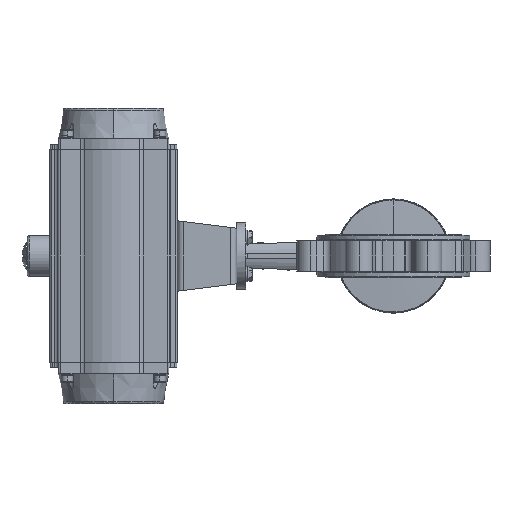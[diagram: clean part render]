
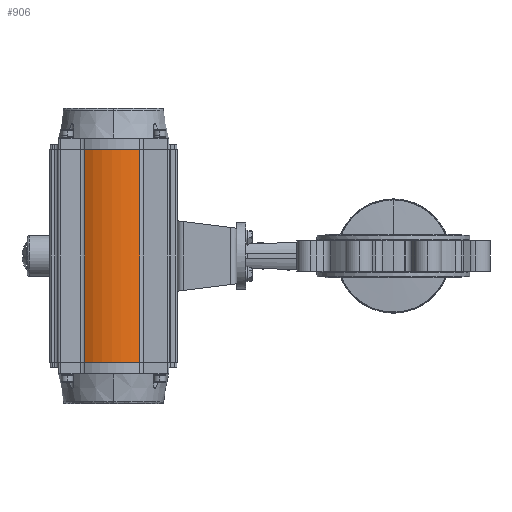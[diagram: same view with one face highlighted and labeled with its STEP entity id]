
A CAD part, left-side view. The second image highlights one B-rep face of the part: STEP entity #906.
In plain terms, the highlighted cylindrical face has radius 75 mm (diameter 150 mm), a partial arc.
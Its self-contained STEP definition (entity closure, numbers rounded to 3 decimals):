
#353 = EDGE_LOOP ( 'NONE', ( #81658, #37448, #69036, #13335 ) ) ;
#906 = ADVANCED_FACE ( 'NONE', ( #54133 ), #47573, .T. ) ;
#1620 = CARTESIAN_POINT ( 'NONE',  ( -63.971, 416.651, -143. ) ) ;
#1913 = CIRCLE ( 'NONE', #8482, 75. ) ;
#4511 = EDGE_CURVE ( 'NONE', #74576, #9348, #68261, .T. ) ;
#5533 = DIRECTION ( 'NONE',  ( 0., 0., 1. ) ) ;
#8191 = VECTOR ( 'NONE', #5533, 1000. ) ;
#8403 = VECTOR ( 'NONE', #22320, 1000. ) ;
#8482 = AXIS2_PLACEMENT_3D ( 'NONE', #71670, #46913, #79112 ) ;
#9348 = VERTEX_POINT ( 'NONE', #24522 ) ;
#10725 = DIRECTION ( 'NONE',  ( 0., 0., 1. ) ) ;
#13335 = ORIENTED_EDGE ( 'NONE', *, *, #4511, .T. ) ;
#13974 = VERTEX_POINT ( 'NONE', #1620 ) ;
#16536 = CARTESIAN_POINT ( 'NONE',  ( -63.971, 416.651, -143. ) ) ;
#17620 = DIRECTION ( 'NONE',  ( 1., 0., 0. ) ) ;
#19227 = CARTESIAN_POINT ( 'NONE',  ( -66.176, 342.206, -143. ) ) ;
#22320 = DIRECTION ( 'NONE',  ( 0., 0., -1. ) ) ;
#23985 = AXIS2_PLACEMENT_3D ( 'NONE', #60996, #67183, #17620 ) ;
#24522 = CARTESIAN_POINT ( 'NONE',  ( -66.176, 342.206, 143. ) ) ;
#31707 = VERTEX_POINT ( 'NONE', #65112 ) ;
#33300 = EDGE_CURVE ( 'NONE', #13974, #74576, #56961, .T. ) ;
#35007 = EDGE_CURVE ( 'NONE', #31707, #13974, #47985, .T. ) ;
#37448 = ORIENTED_EDGE ( 'NONE', *, *, #35007, .T. ) ;
#38882 = EDGE_CURVE ( 'NONE', #31707, #9348, #1913, .T. ) ;
#46913 = DIRECTION ( 'NONE',  ( 0., 0., 1. ) ) ;
#47573 = CYLINDRICAL_SURFACE ( 'NONE', #52474, 75. ) ;
#47985 = LINE ( 'NONE', #16536, #8403 ) ;
#52474 = AXIS2_PLACEMENT_3D ( 'NONE', #60279, #10725, #65662 ) ;
#54133 = FACE_OUTER_BOUND ( 'NONE', #353, .T. ) ;
#56961 = CIRCLE ( 'NONE', #23985, 75. ) ;
#60279 = CARTESIAN_POINT ( 'NONE',  ( 0., 377.5, -143. ) ) ;
#60996 = CARTESIAN_POINT ( 'NONE',  ( 0., 377.5, -143. ) ) ;
#65112 = CARTESIAN_POINT ( 'NONE',  ( -63.971, 416.651, 143. ) ) ;
#65662 = DIRECTION ( 'NONE',  ( 1., 0., 0. ) ) ;
#66340 = CARTESIAN_POINT ( 'NONE',  ( -66.176, 342.206, -515.83 ) ) ;
#67183 = DIRECTION ( 'NONE',  ( 0., 0., 1. ) ) ;
#68261 = LINE ( 'NONE', #66340, #8191 ) ;
#69036 = ORIENTED_EDGE ( 'NONE', *, *, #33300, .T. ) ;
#71670 = CARTESIAN_POINT ( 'NONE',  ( 0., 377.5, 143. ) ) ;
#74576 = VERTEX_POINT ( 'NONE', #19227 ) ;
#79112 = DIRECTION ( 'NONE',  ( 1., 0., 0. ) ) ;
#81658 = ORIENTED_EDGE ( 'NONE', *, *, #38882, .F. ) ;
